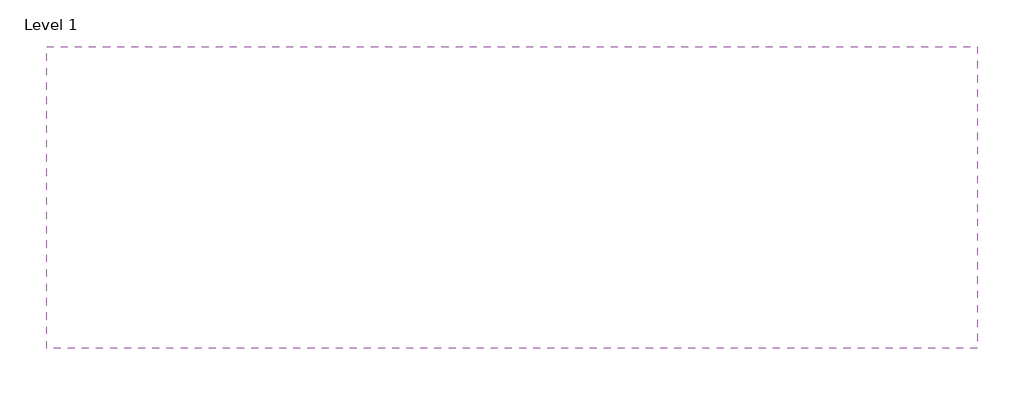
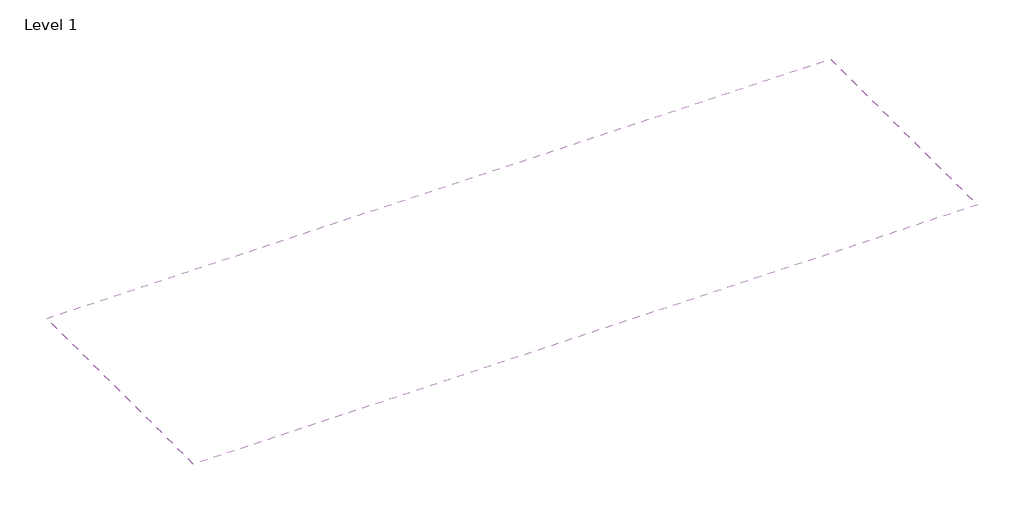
# One storey, incomplete: 1 covering.
"""IFC4 building model written with IfcOpenShell, lengths in millimetres."""

from ifc_helpers import new_model, si_unit, frame, origin, place, context, project, spatial, polyline, outline, extrude, element, save

model = new_model("IFC4")

# Units and contexts
model_context = context("Model", 3, world=origin())
ifc_project = project(units=[si_unit("LENGTHUNIT", "METRE", prefix="MILLI")], contexts=[model_context])

# Site, building, storey
site = spatial("IfcSite", under=ifc_project)
building = spatial("IfcBuilding", under=site)
storey = spatial("IfcBuildingStorey", under=building, Name="Level 1", Elevation=0.0)

# Covering
placement = place(None, origin())
element("IfcCovering", 1, ObjectType="600 x 1200mm Grid", at=placement, inside=storey, context=model_context, shape_type="SweptSolid", body=[
    extrude(outline(polyline([(-11400.883584, 6561.1087432), (-11400.883584, 5561.1087432), (-14480.883584, 5561.1087432), (-14480.883584, 6561.1087432), (-11400.883584, 6561.1087432)])), frame((0.0, 0.0, 2000.0), z_axis=(0.0, 0.0, 1.0), x_axis=(1.0, 0.0, 0.0)), (0.0, 0.0, 1.0), 52.0),
])

save(model, "model.ifc")
